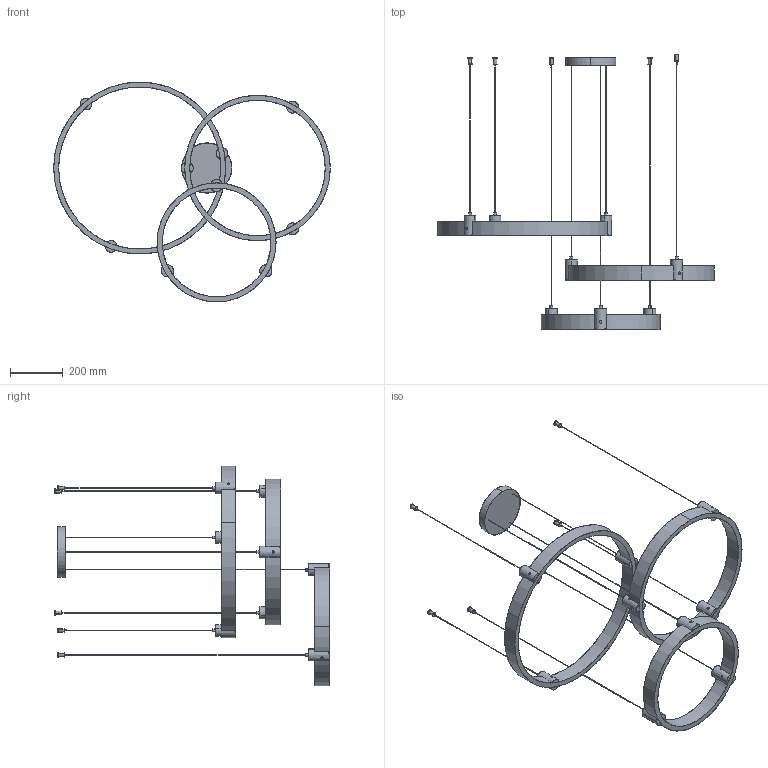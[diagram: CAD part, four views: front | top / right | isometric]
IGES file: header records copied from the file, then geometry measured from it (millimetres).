
Start section: SolidWorks IGES file using analytic representation for surfaces
Global section: file name: F:\燠隴矨\3D\2026-7\Celestial Orbit Travertine Chandelier-3rings-D65+55+45CM.IGS,15; native system: HSolidWorks 2022; preprocessor: SolidWorks 2022; author: MyPC; date: 260717.163756; units: millimetre
Bounding box: 1045.61 x 1040.99 x 831.54 mm (x, y, z)
Surface area: 1059746.2 mm2 (no closed solid volume)
Topology: 0 solids, 0 shells, 289 faces, 7682 edges, 7682 vertices
Faces by surface type: revolution 202, bspline 87
